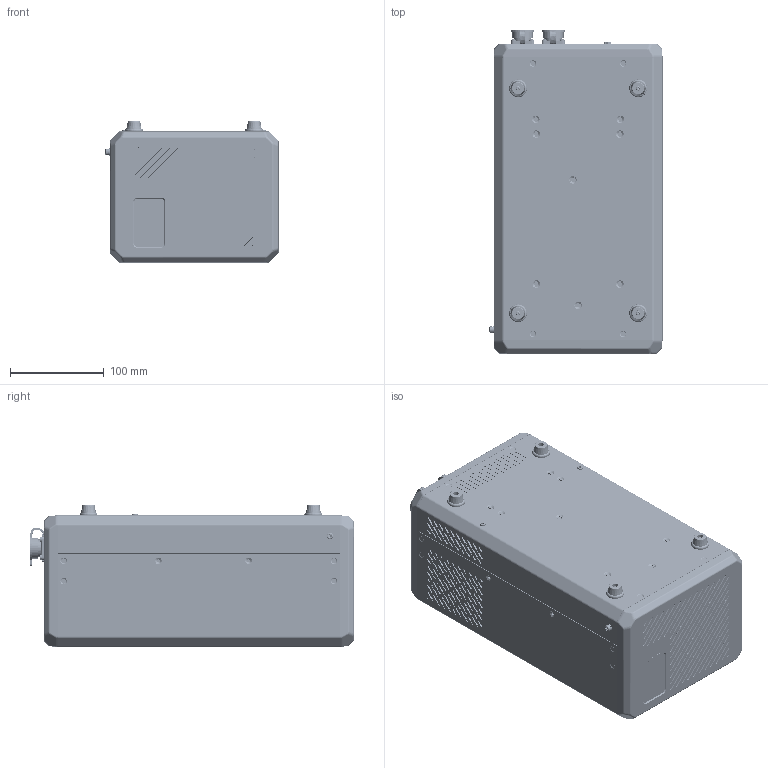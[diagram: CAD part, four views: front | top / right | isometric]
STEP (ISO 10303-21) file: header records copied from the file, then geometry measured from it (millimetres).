
FILE_DESCRIPTION((''),'2;1');
FILE_NAME('000-MV-L201_500W_750W','2024-03-29T15:15:26',('lizhoupeng'),(''),'CREO PARAMETRIC BY PTC INC, 2020044','CREO PARAMETRIC BY PTC INC, 2020044','');
FILE_SCHEMA(('AUTOMOTIVE_DESIGN { 1 0 10303 214 1 1 1 1 }'));
Products named in the file (1): 000-MV-L201_500W_750W
Bounding box: 184.4 x 344.5 x 150.8 mm (x, y, z)
Volume: 8174156.8 mm3; surface area: 363338.1 mm2
Topology: 4 solids, 178 shells, 11414 faces, 30313 edges, 19474 vertices
Faces by surface type: plane 6244, cylinder 2493, bspline 1687, cone 739, torus 146, extrusion 69, sphere 36
Entity records: 414843 total; most frequent: CARTESIAN_POINT 138540, ORIENTED_EDGE 60266, DIRECTION 53072, EDGE_CURVE 30275, VERTEX_POINT 19474, VECTOR 18542, LINE 18473, AXIS2_PLACEMENT_3D 17265
